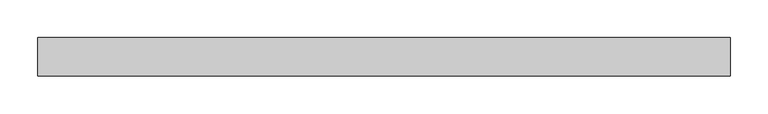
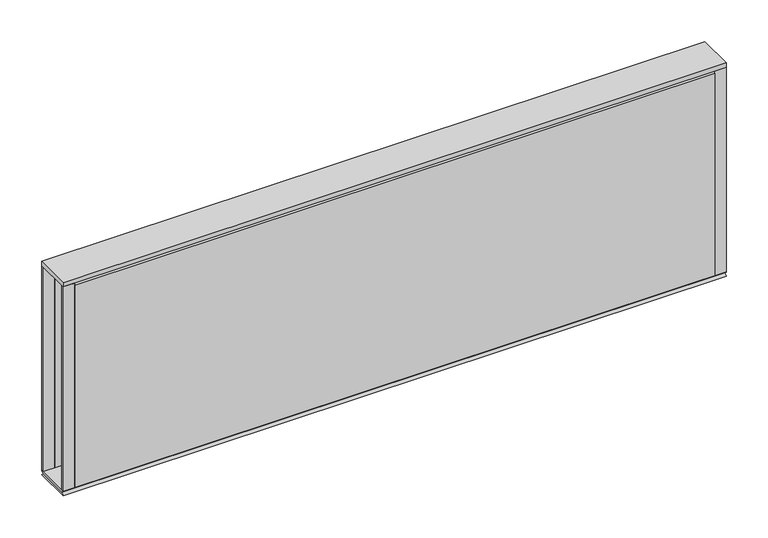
"""IFC4 building model written with IfcOpenShell, lengths in millimetres: furniture geometry, Steelcase - Kick Solutions - Panel - Stacker - Tackable Acoustical : 12H x 36W."""

from ifc_helpers import new_model, si_unit, frame, origin, place, context, project, spatial, polyline, outline, extrude, source, transform, mapped, element, save


def furniture_dff67a26(model_context):
    return source(origin(), model_context, "Body", "SweptSolid", [
        extrude(outline(polyline([(-50.7995075, 1073.2669139), (-0.000494, 1073.2669139), (-3.1752531, 1070.0921549), (-47.6247484, 1070.0921549), (-50.7995075, 1073.2669139)])), frame((0.0, 0.0, 0.0), z_axis=(1.0, 0.0, 0.0), x_axis=(0.0, 1.0, 0.0)), (0.0, 0.0, 1.0), 914.4),
        extrude(outline(polyline([(0.0, 1073.2669139), (-3.1750015, 1073.2669139), (-3.1750015, 1371.7169018), (0.0, 1368.6357466), (0.0, 1073.2669139)])), frame((15.8749996, 0.0, 0.0), z_axis=(1.0, 0.0, 0.0), x_axis=(0.0, 1.0, 0.0)), (0.0, 0.0, 1.0), 882.6500008),
        extrude(outline(polyline([(-50.8000015, 1073.2669139), (-50.8000015, 1368.6357466), (-47.625, 1371.7169018), (-47.625, 1073.2669139), (-50.8000015, 1073.2669139)])), frame((15.8749996, 0.0, 0.0), z_axis=(1.0, 0.0, 0.0), x_axis=(0.0, 1.0, 0.0)), (0.0, 0.0, 1.0), 882.6500008),
        extrude(outline(polyline([(914.4, -3.1750015), (898.5250004, -3.1750015), (898.5250004, 0.0), (914.4, 0.0), (914.4, -3.1750015)])), frame((0.0, 0.0, 1073.2669139), z_axis=(0.0, 0.0, 1.0), x_axis=(1.0, 0.0, 0.0)), (0.0, 0.0, 1.0), 298.4499879),
        extrude(outline(polyline([(15.8749996, -50.8000015), (0.0, -50.8000015), (0.0, -47.625), (15.8749996, -47.625), (15.8749996, -50.8000015)])), frame((0.0, 0.0, 1073.2669139), z_axis=(0.0, 0.0, 1.0), x_axis=(1.0, 0.0, 0.0)), (0.0, 0.0, 1.0), 298.4499879),
        extrude(outline(polyline([(914.4, 0.0), (914.4, -50.8000015), (0.0, -50.8000015), (0.0, 0.0), (914.4, 0.0)])), frame((0.0, 0.0, 1371.7169018), z_axis=(0.0, 0.0, 1.0), x_axis=(1.0, 0.0, 0.0)), (0.0, 0.0, 1.0), 6.35),
        extrude(outline(polyline([(15.8749996, -3.1750015), (0.0, -3.1750015), (0.0, 0.0), (15.8749996, 0.0), (15.8749996, -3.1750015)])), frame((0.0, 0.0, 1073.2669139), z_axis=(0.0, 0.0, 1.0), x_axis=(1.0, 0.0, 0.0)), (0.0, 0.0, 1.0), 298.4499879),
        extrude(outline(polyline([(914.4, -50.8000015), (898.5250004, -50.8000015), (898.5250004, -47.625), (914.4, -47.625), (914.4, -50.8000015)])), frame((0.0, 0.0, 1073.2669139), z_axis=(0.0, 0.0, 1.0), x_axis=(1.0, 0.0, 0.0)), (0.0, 0.0, 1.0), 298.4499879),
        extrude(outline(polyline([(-50.8000015, 1066.9169018), (-47.6247484, 1070.0921549), (-3.1752531, 1070.0921549), (0.0, 1066.9169018), (-50.8000015, 1066.9169018)])), frame((0.0, 0.0, 0.0), z_axis=(1.0, 0.0, 0.0), x_axis=(0.0, 1.0, 0.0)), (0.0, 0.0, 1.0), 914.4),
    ])


if __name__ == "__main__":
    model = new_model("IFC4")
    model_context = context("Model", 3, world=origin())
    ifc_project = project(units=[si_unit("LENGTHUNIT", "METRE", prefix="MILLI")], contexts=[model_context])
    site = spatial("IfcSite", under=ifc_project)
    building = spatial("IfcBuilding", under=site)
    placement = place(None, origin())
    furniture_shape = furniture_dff67a26(model_context)
    element("IfcFurniture", 1, ObjectType="Steelcase - Kick Solutions - Panel - Stacker - Tackable Acoustical : 12H x 36W", at=placement, inside=building, context=model_context, shape_type="MappedRepresentation", body=[
        mapped(furniture_shape, transform((0.0, 0.0, 0.0), x_axis=(1.0, 0.0, 0.0), y_axis=(0.0, 1.0, 0.0), z_axis=(0.0, 0.0, 1.0))),
    ])
    save(model, "model.ifc")
